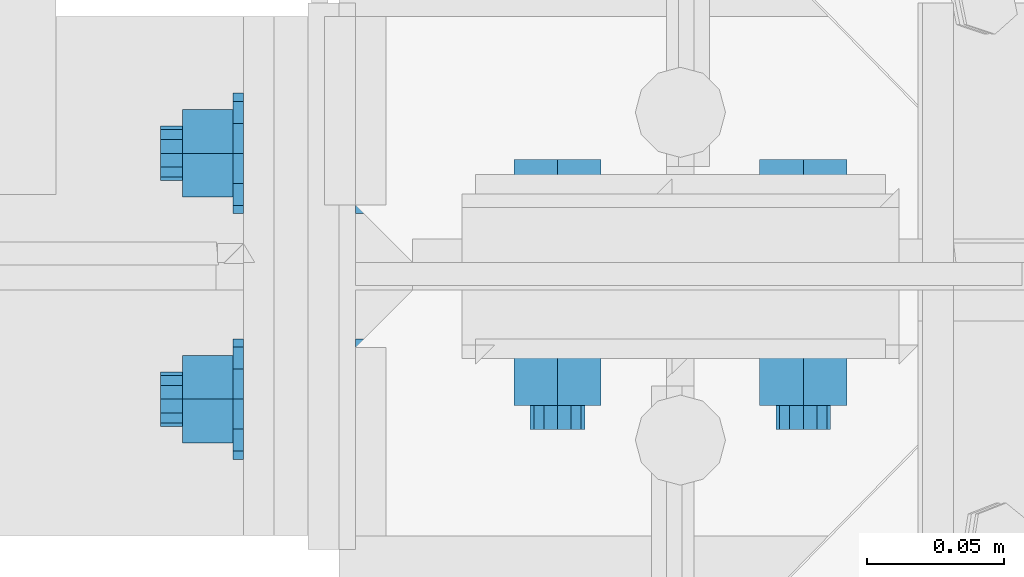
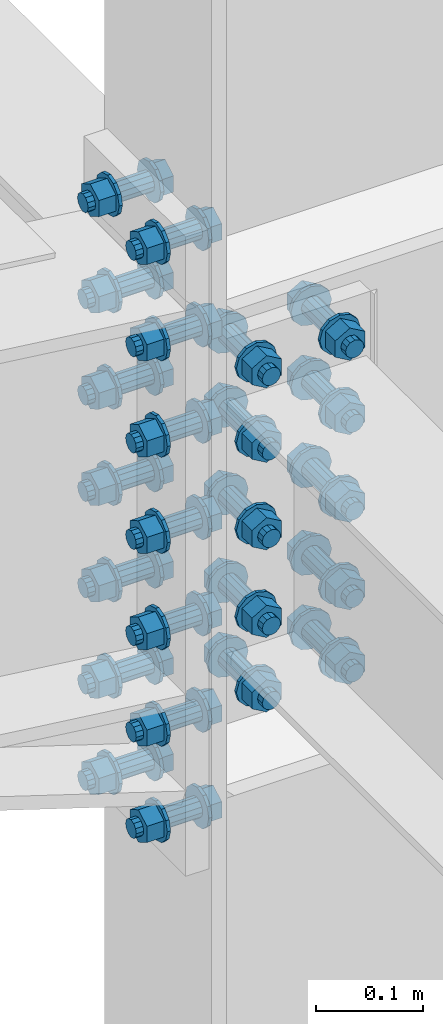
# One storey, part 152 of 3134: 2 mechanical fasteners, 2 elements without a shape of their own.
"""IFC2X3 building model written with IfcOpenShell, lengths in millimetres."""

from ifc_helpers import new_model, si_unit, frame, origin_with_axes, place, context, subcontext, project, spatial, faceted_brep, source, transform, mapped, material, type_object, element, aggregate, save


model = new_model("IFC2X3")

# Units and contexts
model_context = context("Model", 3, precision=1e-05, world=origin_with_axes())
body_context = subcontext(model_context, "Body", "Model", "MODEL_VIEW")
ifc_project = project(units=[si_unit("LENGTHUNIT", "METRE", prefix="MILLI"), si_unit("AREAUNIT", "SQUARE_METRE"), si_unit("VOLUMEUNIT", "CUBIC_METRE"), si_unit("MASSUNIT", "GRAM", prefix="KILO"), si_unit("TIMEUNIT", "SECOND"), si_unit("PLANEANGLEUNIT", "RADIAN"), si_unit("SOLIDANGLEUNIT", "STERADIAN"), si_unit("THERMODYNAMICTEMPERATUREUNIT", "DEGREE_CELSIUS"), si_unit("LUMINOUSINTENSITYUNIT", "LUMEN")], contexts=[model_context])

# Site, building, storey
site_placement = place(None, origin_with_axes())
site = spatial("IfcSite", under=ifc_project, at=site_placement, CompositionType="ELEMENT")
building_placement = place(site_placement, origin_with_axes())
building = spatial("IfcBuilding", under=site, at=building_placement, Name="Undefined", CompositionType="ELEMENT")
storey_placement = place(building_placement, origin_with_axes())
storey = spatial("IfcBuildingStorey", under=building, at=storey_placement, Name="Undefined", CompositionType="ELEMENT", Elevation=0.0)

# Assembly, mechanical fastener
assembly_1_placement = place(storey_placement, origin_with_axes())
assembly_1 = element("IfcElementAssembly", 1, at=assembly_1_placement, inside=storey, Name="IPE450", AssemblyPlace="NOTDEFINED", PredefinedType="RIGID_FRAME")
ifc_material = material(Name="HR10.9")
mechanical_fastener_type = type_object("IfcMechanicalFastenerType", Name="Bolt assembly")
shared_shape_1 = source(origin_with_axes(), body_context, "Body", "Brep", [
    faceted_brep([(18.475208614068, -33.599999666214, 0.0), (9.23760430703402, -33.599999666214, 16.0), (-9.23760430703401, -33.599999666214, 16.0), (-18.475208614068, -33.599999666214, 2.2625605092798e-15), (-9.23760430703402, -33.599999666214, -16.0), (9.237604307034, -33.599999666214, -16.0), (9.237604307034, -19.7000000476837, -16.0), (-9.23760430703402, -19.7000000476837, -16.0), (-18.475208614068, -19.7000000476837, 2.2625605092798e-15), (-9.23760430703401, -19.7000000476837, 16.0), (9.23760430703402, -19.7000000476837, 16.0), (18.475208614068, -19.7000000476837, 0.0), (10.0, -19.7000000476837, 0.0), (8.66025403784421, -19.7000000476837, 5.0000000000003), (4.9999999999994, -19.7000000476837, 8.66025403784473), (-1.03633598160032e-12, -19.7000000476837, 10.0), (-5.00000000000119, -19.7000000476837, 8.6602540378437), (-8.66025403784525, -19.7000000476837, 4.99999999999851), (-10.0, -19.7000000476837, -2.07267196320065e-12), (-8.66025403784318, -19.7000000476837, -5.00000000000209), (-4.99999999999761, -19.7000000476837, -8.66025403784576), (3.09790571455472e-12, -19.7000000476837, -10.0), (5.00000000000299, -19.7000000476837, -8.66025403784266), (8.66025403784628, -19.7000000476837, -4.99999999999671), (8.66025403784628, 55.2999999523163, -4.99999999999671), (5.00000000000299, 55.2999999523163, -8.66025403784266), (3.09790571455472e-12, 55.2999999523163, -10.0), (-4.99999999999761, 55.2999999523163, -8.66025403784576), (-8.66025403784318, 55.2999999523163, -5.00000000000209), (-10.0, 55.2999999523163, -2.07267196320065e-12), (-8.66025403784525, 55.2999999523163, 4.99999999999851), (-5.00000000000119, 55.2999999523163, 8.6602540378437), (-1.03633598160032e-12, 55.2999999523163, 10.0), (4.9999999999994, 55.2999999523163, 8.66025403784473), (8.66025403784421, 55.2999999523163, 5.0000000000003), (10.0, 55.2999999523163, 0.0), (22.0, -19.7000000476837, 0.0), (19.0525588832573, -19.7000000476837, 11.0000000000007), (10.9999999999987, -19.7000000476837, 19.0525588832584), (-2.27993915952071e-12, -19.7000000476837, 22.0), (-11.0000000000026, -19.7000000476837, 19.0525588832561), (-19.0525588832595, -19.7000000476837, 10.9999999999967), (-22.0, -19.7000000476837, -4.55987831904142e-12), (-19.052558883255, -19.7000000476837, -11.0000000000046), (-10.9999999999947, -19.7000000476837, -19.0525588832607), (6.81539257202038e-12, -19.7000000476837, -22.0), (11.0000000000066, -19.7000000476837, -19.0525588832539), (19.0525588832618, -19.7000000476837, -10.9999999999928), (19.0525588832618, -16.0, -10.9999999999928), (11.0000000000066, -16.0, -19.0525588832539), (6.81539257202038e-12, -16.0, -22.0), (-10.9999999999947, -16.0, -19.0525588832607), (-19.052558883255, -16.0, -11.0000000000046), (-22.0, -16.0, -4.55987831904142e-12), (-19.0525588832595, -16.0, 10.9999999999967), (-11.0000000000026, -16.0, 19.0525588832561), (-2.27993915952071e-12, -16.0, 22.0), (10.9999999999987, -16.0, 19.0525588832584), (19.0525588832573, -16.0, 11.0000000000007), (22.0, -16.0, 0.0), (22.0, 25.0, 0.0), (19.0525588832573, 25.0, 11.0000000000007), (10.9999999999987, 25.0, 19.0525588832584), (-2.27993915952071e-12, 25.0, 22.0), (-11.0000000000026, 25.0, 19.0525588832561), (-19.0525588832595, 25.0, 10.9999999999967), (-22.0, 25.0, -4.55987831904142e-12), (-19.052558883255, 25.0, -11.0000000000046), (-10.9999999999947, 25.0, -19.0525588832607), (6.81539257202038e-12, 25.0, -22.0), (11.0000000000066, 25.0, -19.0525588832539), (19.0525588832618, 25.0, -10.9999999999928), (19.0525588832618, 28.7000000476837, -10.9999999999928), (11.0000000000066, 28.7000000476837, -19.0525588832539), (6.81539257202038e-12, 28.7000000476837, -22.0), (-10.9999999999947, 28.7000000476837, -19.0525588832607), (-19.052558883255, 28.7000000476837, -11.0000000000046), (-22.0, 28.7000000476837, -4.55987831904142e-12), (-19.0525588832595, 28.7000000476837, 10.9999999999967), (-11.0000000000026, 28.7000000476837, 19.0525588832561), (-2.27993915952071e-12, 28.7000000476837, 22.0), (10.9999999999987, 28.7000000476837, 19.0525588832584), (19.0525588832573, 28.7000000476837, 11.0000000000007), (22.0, 28.7000000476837, 0.0), (18.475208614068, 28.7000000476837, 0.0), (9.23760430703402, 28.7000000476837, 16.0), (-9.23760430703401, 28.7000000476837, 16.0), (-18.475208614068, 28.7000000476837, 2.2625605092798e-15), (-9.23760430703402, 28.7000000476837, -16.0), (9.237604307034, 28.7000000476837, -16.0), (9.237604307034, 47.2499992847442, -16.0), (-9.23760430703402, 47.2499992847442, -16.0), (-18.475208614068, 47.2499992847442, 2.2625605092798e-15), (-9.23760430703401, 47.2499992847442, 16.0), (9.23760430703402, 47.2499992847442, 16.0), (18.475208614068, 47.2499992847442, 0.0)], [[[0, 1, 2, 3, 4, 5]], [[6, 7, 8, 9, 10, 11]], [[0, 11, 10, 1]], [[1, 10, 9, 2]], [[2, 9, 8, 3]], [[3, 8, 7, 4]], [[4, 7, 6, 5]], [[5, 6, 11, 0]], [[12, 13, 14, 15, 16, 17, 18, 19, 20, 21, 22, 23]], [[24, 25, 26, 27, 28, 29, 30, 31, 32, 33, 34, 35]], [[12, 35, 34, 13]], [[13, 34, 33, 14]], [[14, 33, 32, 15]], [[15, 32, 31, 16]], [[16, 31, 30, 17]], [[17, 30, 29, 18]], [[18, 29, 28, 19]], [[19, 28, 27, 20]], [[20, 27, 26, 21]], [[21, 26, 25, 22]], [[22, 25, 24, 23]], [[23, 24, 35, 12]], [[36, 37, 38, 39, 40, 41, 42, 43, 44, 45, 46, 47]], [[48, 49, 50, 51, 52, 53, 54, 55, 56, 57, 58, 59]], [[36, 59, 58, 37]], [[37, 58, 57, 38]], [[38, 57, 56, 39]], [[39, 56, 55, 40]], [[40, 55, 54, 41]], [[41, 54, 53, 42]], [[42, 53, 52, 43]], [[43, 52, 51, 44]], [[44, 51, 50, 45]], [[45, 50, 49, 46]], [[46, 49, 48, 47]], [[47, 48, 59, 36]], [[60, 61, 62, 63, 64, 65, 66, 67, 68, 69, 70, 71]], [[72, 73, 74, 75, 76, 77, 78, 79, 80, 81, 82, 83]], [[60, 83, 82, 61]], [[61, 82, 81, 62]], [[62, 81, 80, 63]], [[63, 80, 79, 64]], [[64, 79, 78, 65]], [[65, 78, 77, 66]], [[66, 77, 76, 67]], [[67, 76, 75, 68]], [[68, 75, 74, 69]], [[69, 74, 73, 70]], [[70, 73, 72, 71]], [[71, 72, 83, 60]], [[84, 85, 86, 87, 88, 89]], [[90, 91, 92, 93, 94, 95]], [[84, 95, 94, 85]], [[85, 94, 93, 86]], [[86, 93, 92, 87]], [[87, 92, 91, 88]], [[88, 91, 90, 89]], [[89, 90, 95, 84]]]),
    faceted_brep([(11.0, -15.9, 0.0), (9.52627944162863, -15.9, 5.50000000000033), (5.49999999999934, -15.9, 9.5262794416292), (-1.13996957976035e-12, -15.9, 11.0), (-5.50000000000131, -15.9, 9.52627944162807), (-9.52627944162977, -15.9, 5.49999999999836), (-11.0, -15.9, -2.27993915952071e-12), (-9.5262794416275, -15.9, -5.5000000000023), (-5.49999999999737, -15.9, -9.52627944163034), (3.40769628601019e-12, -15.9, -11.0), (5.50000000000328, -15.9, -9.52627944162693), (9.52627944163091, -15.9, -5.49999999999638), (9.52627944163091, 0.0999999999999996, -5.49999999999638), (5.50000000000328, 0.0999999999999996, -9.52627944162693), (3.40769628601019e-12, 0.0999999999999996, -11.0), (-5.49999999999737, 0.0999999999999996, -9.52627944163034), (-9.5262794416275, 0.0999999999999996, -5.5000000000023), (-11.0, 0.0999999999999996, -2.27993915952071e-12), (-9.52627944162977, 0.0999999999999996, 5.49999999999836), (-5.50000000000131, 0.0999999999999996, 9.52627944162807), (-1.13996957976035e-12, 0.0999999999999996, 11.0), (5.49999999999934, 0.0999999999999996, 9.5262794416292), (9.52627944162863, 0.0999999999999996, 5.50000000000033), (11.0, 0.0999999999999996, 0.0), (11.0, -0.1, 0.0), (9.52627944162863, -0.1, 5.50000000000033), (5.49999999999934, -0.1, 9.5262794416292), (-1.13996957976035e-12, -0.1, 11.0), (-5.50000000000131, -0.1, 9.52627944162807), (-9.52627944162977, -0.1, 5.49999999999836), (-11.0, -0.1, -2.27993915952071e-12), (-9.5262794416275, -0.1, -5.5000000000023), (-5.49999999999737, -0.1, -9.52627944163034), (3.40769628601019e-12, -0.1, -11.0), (5.50000000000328, -0.1, -9.52627944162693), (9.52627944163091, -0.1, -5.49999999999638), (9.52627944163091, 25.0, -5.49999999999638), (5.50000000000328, 25.0, -9.52627944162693), (3.40769628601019e-12, 25.0, -11.0), (-5.49999999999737, 25.0, -9.52627944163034), (-9.5262794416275, 25.0, -5.5000000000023), (-11.0, 25.0, -2.27993915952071e-12), (-9.52627944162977, 25.0, 5.49999999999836), (-5.50000000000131, 25.0, 9.52627944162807), (-1.13996957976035e-12, 25.0, 11.0), (5.49999999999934, 25.0, 9.5262794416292), (9.52627944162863, 25.0, 5.50000000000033), (11.0, 25.0, 0.0)], [[[0, 1, 2, 3, 4, 5, 6, 7, 8, 9, 10, 11]], [[12, 13, 14, 15, 16, 17, 18, 19, 20, 21, 22, 23]], [[0, 23, 22, 1]], [[1, 22, 21, 2]], [[2, 21, 20, 3]], [[3, 20, 19, 4]], [[4, 19, 18, 5]], [[5, 18, 17, 6]], [[6, 17, 16, 7]], [[7, 16, 15, 8]], [[8, 15, 14, 9]], [[9, 14, 13, 10]], [[10, 13, 12, 11]], [[11, 12, 23, 0]], [[24, 25, 26, 27, 28, 29, 30, 31, 32, 33, 34, 35]], [[36, 37, 38, 39, 40, 41, 42, 43, 44, 45, 46, 47]], [[24, 47, 46, 25]], [[25, 46, 45, 26]], [[26, 45, 44, 27]], [[27, 44, 43, 28]], [[28, 43, 42, 29]], [[29, 42, 41, 30]], [[30, 41, 40, 31]], [[31, 40, 39, 32]], [[32, 39, 38, 33]], [[33, 38, 37, 34]], [[34, 37, 36, 35]], [[35, 36, 47, 24]]]),
])
mechanical_fastener_1_placement = place(assembly_1_placement, frame((55740.0, 19450.0, 4461.54211857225), z_axis=(0.0, 1.0, 0.0), x_axis=(0.0, 0.0, -1.0)))
mechanical_fastener_1 = element("IfcMechanicalFastener", 2, at=mechanical_fastener_1_placement, type_object=mechanical_fastener_type, material=ifc_material, Name="Bolt assembly", NominalDiameter=20.0, NominalLength=75.0, context=body_context, shape_type="MappedRepresentation", body=[
    mapped(shared_shape_1, transform((0.0, 0.0, -45.0))),
    mapped(shared_shape_1, transform((0.0, 0.0, 45.0))),
    mapped(shared_shape_1, transform((110.0, 0.0, -45.0))),
    mapped(shared_shape_1, transform((110.0, 0.0, 45.0))),
    mapped(shared_shape_1, transform((220.0, 0.0, -45.0))),
    mapped(shared_shape_1, transform((220.0, 0.0, 45.0))),
    mapped(shared_shape_1, transform((330.0, 0.0, -45.0))),
    mapped(shared_shape_1, transform((330.0, 0.0, 45.0))),
    mapped(shared_shape_1, transform((440.0, 0.0, -45.0))),
    mapped(shared_shape_1, transform((440.0, 0.0, 45.0))),
    mapped(shared_shape_1, transform((550.0, 0.0, -45.0))),
    mapped(shared_shape_1, transform((550.0, 0.0, 45.0))),
    mapped(shared_shape_1, transform((660.0, 0.0, -45.0))),
    mapped(shared_shape_1, transform((660.0, 0.0, 45.0))),
])
aggregate(assembly_1, [mechanical_fastener_1])

assembly_2_placement = place(storey_placement, origin_with_axes())
assembly_2 = element("IfcElementAssembly", 3, at=assembly_2_placement, inside=storey, Name="300", AssemblyPlace="NOTDEFINED", PredefinedType="RIGID_FRAME")
shared_shape_2 = source(origin_with_axes(), body_context, "Body", "Brep", [
    faceted_brep([(18.475208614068, -18.3999996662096, 0.0), (9.23760430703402, -18.3999996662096, 16.0), (-9.23760430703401, -18.3999996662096, 16.0), (-18.475208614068, -18.3999996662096, 2.2625605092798e-15), (-9.23760430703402, -18.3999996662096, -16.0), (9.237604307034, -18.3999996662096, -16.0), (9.237604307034, -4.50000004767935, -16.0), (-9.23760430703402, -4.50000004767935, -16.0), (-18.475208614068, -4.50000004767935, 2.2625605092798e-15), (-9.23760430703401, -4.50000004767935, 16.0), (9.23760430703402, -4.50000004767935, 16.0), (18.475208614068, -4.50000004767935, 0.0), (10.0, -4.50000004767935, 0.0), (8.66025403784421, -4.50000004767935, 5.0000000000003), (4.9999999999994, -4.50000004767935, 8.66025403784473), (-1.03633598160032e-12, -4.50000004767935, 10.0), (-5.00000000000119, -4.50000004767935, 8.6602540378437), (-8.66025403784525, -4.50000004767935, 4.99999999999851), (-10.0, -4.50000004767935, -2.07267196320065e-12), (-8.66025403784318, -4.50000004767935, -5.00000000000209), (-4.99999999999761, -4.50000004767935, -8.66025403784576), (3.09790571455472e-12, -4.50000004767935, -10.0), (5.00000000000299, -4.50000004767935, -8.66025403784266), (8.66025403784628, -4.50000004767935, -4.99999999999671), (8.66025403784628, 80.4999999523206, -4.99999999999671), (5.00000000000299, 80.4999999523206, -8.66025403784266), (3.09790571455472e-12, 80.4999999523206, -10.0), (-4.99999999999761, 80.4999999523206, -8.66025403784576), (-8.66025403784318, 80.4999999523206, -5.00000000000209), (-10.0, 80.4999999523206, -2.07267196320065e-12), (-8.66025403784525, 80.4999999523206, 4.99999999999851), (-5.00000000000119, 80.4999999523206, 8.6602540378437), (-1.03633598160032e-12, 80.4999999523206, 10.0), (4.9999999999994, 80.4999999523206, 8.66025403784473), (8.66025403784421, 80.4999999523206, 5.0000000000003), (10.0, 80.4999999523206, 0.0), (22.0, -4.50000004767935, 0.0), (19.0525588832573, -4.50000004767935, 11.0000000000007), (10.9999999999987, -4.50000004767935, 19.0525588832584), (-2.27993915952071e-12, -4.50000004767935, 22.0), (-11.0000000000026, -4.50000004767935, 19.0525588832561), (-19.0525588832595, -4.50000004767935, 10.9999999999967), (-22.0, -4.50000004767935, -4.55987831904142e-12), (-19.052558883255, -4.50000004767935, -11.0000000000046), (-10.9999999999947, -4.50000004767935, -19.0525588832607), (6.81539257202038e-12, -4.50000004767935, -22.0), (11.0000000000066, -4.50000004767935, -19.0525588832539), (19.0525588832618, -4.50000004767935, -10.9999999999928), (19.0525588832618, -0.799999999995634, -10.9999999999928), (11.0000000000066, -0.799999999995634, -19.0525588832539), (6.81539257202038e-12, -0.799999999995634, -22.0), (-10.9999999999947, -0.799999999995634, -19.0525588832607), (-19.052558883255, -0.799999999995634, -11.0000000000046), (-22.0, -0.799999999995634, -4.55987831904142e-12), (-19.0525588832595, -0.799999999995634, 10.9999999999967), (-11.0000000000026, -0.799999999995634, 19.0525588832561), (-2.27993915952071e-12, -0.799999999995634, 22.0), (10.9999999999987, -0.799999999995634, 19.0525588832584), (19.0525588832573, -0.799999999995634, 11.0000000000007), (22.0, -0.799999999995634, 0.0), (22.0, 49.4000000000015, 0.0), (19.0525588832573, 49.4000000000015, 11.0000000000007), (10.9999999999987, 49.4000000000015, 19.0525588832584), (-2.27993915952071e-12, 49.4000000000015, 22.0), (-11.0000000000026, 49.4000000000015, 19.0525588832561), (-19.0525588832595, 49.4000000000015, 10.9999999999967), (-22.0, 49.4000000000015, -4.55987831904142e-12), (-19.052558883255, 49.4000000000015, -11.0000000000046), (-10.9999999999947, 49.4000000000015, -19.0525588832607), (6.81539257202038e-12, 49.4000000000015, -22.0), (11.0000000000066, 49.4000000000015, -19.0525588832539), (19.0525588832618, 49.4000000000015, -10.9999999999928), (19.0525588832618, 53.1000000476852, -10.9999999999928), (11.0000000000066, 53.1000000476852, -19.0525588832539), (6.81539257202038e-12, 53.1000000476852, -22.0), (-10.9999999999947, 53.1000000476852, -19.0525588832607), (-19.052558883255, 53.1000000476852, -11.0000000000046), (-22.0, 53.1000000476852, -4.55987831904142e-12), (-19.0525588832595, 53.1000000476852, 10.9999999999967), (-11.0000000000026, 53.1000000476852, 19.0525588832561), (-2.27993915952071e-12, 53.1000000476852, 22.0), (10.9999999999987, 53.1000000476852, 19.0525588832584), (19.0525588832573, 53.1000000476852, 11.0000000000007), (22.0, 53.1000000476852, 0.0), (18.475208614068, 53.1000000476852, 0.0), (9.23760430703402, 53.1000000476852, 16.0), (-9.23760430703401, 53.1000000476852, 16.0), (-18.475208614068, 53.1000000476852, 2.2625605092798e-15), (-9.23760430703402, 53.1000000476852, -16.0), (9.237604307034, 53.1000000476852, -16.0), (9.237604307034, 71.6499992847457, -16.0), (-9.23760430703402, 71.6499992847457, -16.0), (-18.475208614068, 71.6499992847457, 2.2625605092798e-15), (-9.23760430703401, 71.6499992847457, 16.0), (9.23760430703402, 71.6499992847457, 16.0), (18.475208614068, 71.6499992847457, 0.0)], [[[0, 1, 2, 3, 4, 5]], [[6, 7, 8, 9, 10, 11]], [[0, 11, 10, 1]], [[1, 10, 9, 2]], [[2, 9, 8, 3]], [[3, 8, 7, 4]], [[4, 7, 6, 5]], [[5, 6, 11, 0]], [[12, 13, 14, 15, 16, 17, 18, 19, 20, 21, 22, 23]], [[24, 25, 26, 27, 28, 29, 30, 31, 32, 33, 34, 35]], [[12, 35, 34, 13]], [[13, 34, 33, 14]], [[14, 33, 32, 15]], [[15, 32, 31, 16]], [[16, 31, 30, 17]], [[17, 30, 29, 18]], [[18, 29, 28, 19]], [[19, 28, 27, 20]], [[20, 27, 26, 21]], [[21, 26, 25, 22]], [[22, 25, 24, 23]], [[23, 24, 35, 12]], [[36, 37, 38, 39, 40, 41, 42, 43, 44, 45, 46, 47]], [[48, 49, 50, 51, 52, 53, 54, 55, 56, 57, 58, 59]], [[36, 59, 58, 37]], [[37, 58, 57, 38]], [[38, 57, 56, 39]], [[39, 56, 55, 40]], [[40, 55, 54, 41]], [[41, 54, 53, 42]], [[42, 53, 52, 43]], [[43, 52, 51, 44]], [[44, 51, 50, 45]], [[45, 50, 49, 46]], [[46, 49, 48, 47]], [[47, 48, 59, 36]], [[60, 61, 62, 63, 64, 65, 66, 67, 68, 69, 70, 71]], [[72, 73, 74, 75, 76, 77, 78, 79, 80, 81, 82, 83]], [[60, 83, 82, 61]], [[61, 82, 81, 62]], [[62, 81, 80, 63]], [[63, 80, 79, 64]], [[64, 79, 78, 65]], [[65, 78, 77, 66]], [[66, 77, 76, 67]], [[67, 76, 75, 68]], [[68, 75, 74, 69]], [[69, 74, 73, 70]], [[70, 73, 72, 71]], [[71, 72, 83, 60]], [[84, 85, 86, 87, 88, 89]], [[90, 91, 92, 93, 94, 95]], [[84, 95, 94, 85]], [[85, 94, 93, 86]], [[86, 93, 92, 87]], [[87, 92, 91, 88]], [[88, 91, 90, 89]], [[89, 90, 95, 84]]]),
    faceted_brep([(11.0, 19.2000000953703, 0.0), (9.52627944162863, 19.2000000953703, 5.50000000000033), (5.49999999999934, 19.2000000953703, 9.5262794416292), (-1.13996957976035e-12, 19.2000000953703, 11.0), (-5.50000000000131, 19.2000000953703, 9.52627944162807), (-9.52627944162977, 19.2000000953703, 5.49999999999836), (-11.0, 19.2000000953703, -2.27993915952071e-12), (-9.5262794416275, 19.2000000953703, -5.5000000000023), (-5.49999999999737, 19.2000000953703, -9.52627944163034), (3.40769628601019e-12, 19.2000000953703, -11.0), (5.50000000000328, 19.2000000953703, -9.52627944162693), (9.52627944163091, 19.2000000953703, -5.49999999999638), (9.52627944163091, 29.3999999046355, -5.49999999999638), (5.50000000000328, 29.3999999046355, -9.52627944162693), (3.40769628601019e-12, 29.3999999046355, -11.0), (-5.49999999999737, 29.3999999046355, -9.52627944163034), (-9.5262794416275, 29.3999999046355, -5.5000000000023), (-11.0, 29.3999999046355, -2.27993915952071e-12), (-9.52627944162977, 29.3999999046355, 5.49999999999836), (-5.50000000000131, 29.3999999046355, 9.52627944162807), (-1.13996957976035e-12, 29.3999999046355, 11.0), (5.49999999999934, 29.3999999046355, 9.5262794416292), (9.52627944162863, 29.3999999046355, 5.50000000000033), (11.0, 29.3999999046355, 0.0), (11.0, -0.699999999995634, 0.0), (9.52627944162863, -0.699999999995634, 5.50000000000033), (5.49999999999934, -0.699999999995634, 9.5262794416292), (-1.13996957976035e-12, -0.699999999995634, 11.0), (-5.50000000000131, -0.699999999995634, 9.52627944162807), (-9.52627944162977, -0.699999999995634, 5.49999999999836), (-11.0, -0.699999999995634, -2.27993915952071e-12), (-9.5262794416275, -0.699999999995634, -5.5000000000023), (-5.49999999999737, -0.699999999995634, -9.52627944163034), (3.40769628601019e-12, -0.699999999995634, -11.0), (5.50000000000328, -0.699999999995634, -9.52627944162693), (9.52627944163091, -0.699999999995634, -5.49999999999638), (9.52627944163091, 19.3000000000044, -5.49999999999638), (5.50000000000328, 19.3000000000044, -9.52627944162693), (3.40769628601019e-12, 19.3000000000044, -11.0), (-5.49999999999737, 19.3000000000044, -9.52627944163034), (-9.5262794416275, 19.3000000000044, -5.5000000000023), (-11.0, 19.3000000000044, -2.27993915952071e-12), (-9.52627944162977, 19.3000000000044, 5.49999999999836), (-5.50000000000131, 19.3000000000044, 9.52627944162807), (-1.13996957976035e-12, 19.3000000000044, 11.0), (5.49999999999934, 19.3000000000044, 9.5262794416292), (9.52627944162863, 19.3000000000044, 5.50000000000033), (11.0, 19.3000000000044, 0.0), (11.0, 29.3000000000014, 0.0), (9.52627944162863, 29.3000000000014, 5.50000000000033), (5.49999999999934, 29.3000000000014, 9.5262794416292), (-1.13996957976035e-12, 29.3000000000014, 11.0), (-5.50000000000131, 29.3000000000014, 9.52627944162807), (-9.52627944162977, 29.3000000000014, 5.49999999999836), (-11.0, 29.3000000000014, -2.27993915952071e-12), (-9.5262794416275, 29.3000000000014, -5.5000000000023), (-5.49999999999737, 29.3000000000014, -9.52627944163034), (3.40769628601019e-12, 29.3000000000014, -11.0), (5.50000000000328, 29.3000000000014, -9.52627944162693), (9.52627944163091, 29.3000000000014, -5.49999999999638), (9.52627944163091, 49.4000000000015, -5.49999999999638), (5.50000000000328, 49.4000000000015, -9.52627944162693), (3.40769628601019e-12, 49.4000000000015, -11.0), (-5.49999999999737, 49.4000000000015, -9.52627944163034), (-9.5262794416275, 49.4000000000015, -5.5000000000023), (-11.0, 49.4000000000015, -2.27993915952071e-12), (-9.52627944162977, 49.4000000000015, 5.49999999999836), (-5.50000000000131, 49.4000000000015, 9.52627944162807), (-1.13996957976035e-12, 49.4000000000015, 11.0), (5.49999999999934, 49.4000000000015, 9.5262794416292), (9.52627944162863, 49.4000000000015, 5.50000000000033), (11.0, 49.4000000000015, 0.0)], [[[0, 1, 2, 3, 4, 5, 6, 7, 8, 9, 10, 11]], [[12, 13, 14, 15, 16, 17, 18, 19, 20, 21, 22, 23]], [[0, 23, 22, 1]], [[1, 22, 21, 2]], [[2, 21, 20, 3]], [[3, 20, 19, 4]], [[4, 19, 18, 5]], [[5, 18, 17, 6]], [[6, 17, 16, 7]], [[7, 16, 15, 8]], [[8, 15, 14, 9]], [[9, 14, 13, 10]], [[10, 13, 12, 11]], [[11, 12, 23, 0]], [[24, 25, 26, 27, 28, 29, 30, 31, 32, 33, 34, 35]], [[36, 37, 38, 39, 40, 41, 42, 43, 44, 45, 46, 47]], [[24, 47, 46, 25]], [[25, 46, 45, 26]], [[26, 45, 44, 27]], [[27, 44, 43, 28]], [[28, 43, 42, 29]], [[29, 42, 41, 30]], [[30, 41, 40, 31]], [[31, 40, 39, 32]], [[32, 39, 38, 33]], [[33, 38, 37, 34]], [[34, 37, 36, 35]], [[35, 36, 47, 24]], [[48, 49, 50, 51, 52, 53, 54, 55, 56, 57, 58, 59]], [[60, 61, 62, 63, 64, 65, 66, 67, 68, 69, 70, 71]], [[48, 71, 70, 49]], [[49, 70, 69, 50]], [[50, 69, 68, 51]], [[51, 68, 67, 52]], [[52, 67, 66, 53]], [[53, 66, 65, 54]], [[54, 65, 64, 55]], [[55, 64, 63, 56]], [[56, 63, 62, 57]], [[57, 62, 61, 58]], [[58, 61, 60, 59]], [[59, 60, 71, 48]]]),
])
mechanical_fastener_2_placement = place(assembly_2_placement, frame((55875.0, 19474.3, 4273.5), z_axis=(-1.0, 0.0, 0.0), x_axis=(0.0, 0.0, -1.0)))
mechanical_fastener_2 = element("IfcMechanicalFastener", 4, at=mechanical_fastener_2_placement, type_object=mechanical_fastener_type, material=ifc_material, Name="Bolt assembly", NominalDiameter=20.0, NominalLength=85.0, context=body_context, shape_type="MappedRepresentation", body=[
    mapped(shared_shape_2, transform((0.0, 0.0, -45.0))),
    mapped(shared_shape_2, transform((85.0, 0.0, -45.0))),
    mapped(shared_shape_2, transform((185.0, 0.0, -45.0))),
    mapped(shared_shape_2, transform((285.0, 0.0, -45.0))),
    mapped(shared_shape_2, transform((370.0, 0.0, -45.0))),
    mapped(shared_shape_2, transform((0.0, 0.0, 45.0))),
    mapped(shared_shape_2, transform((85.0, 0.0, 45.0))),
    mapped(shared_shape_2, transform((185.0, 0.0, 45.0))),
    mapped(shared_shape_2, transform((285.0, 0.0, 45.0))),
    mapped(shared_shape_2, transform((370.0, 0.0, 45.0))),
])
aggregate(assembly_2, [mechanical_fastener_2])

save(model, "model.ifc")
